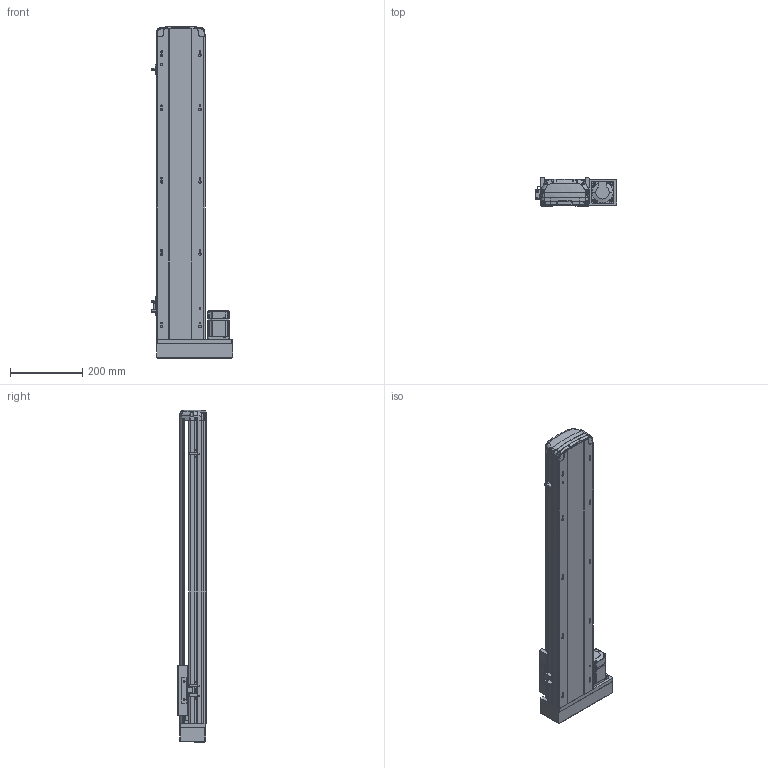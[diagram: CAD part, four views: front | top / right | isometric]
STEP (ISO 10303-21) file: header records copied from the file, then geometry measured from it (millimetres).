
FILE_DESCRIPTION (( 'STEP AP214' ), '1' );
FILE_NAME ('RTH14-XX-650-R-M20-C4.STEP', '2025-10-24T09:55:13', ( 'Microsoft' ), ( 'Microsoft' ), 'SwSTEP 2.0', 'SolidWorks 2018', '' );
FILE_SCHEMA (( 'AUTOMOTIVE_DESIGN' ));
Length unit declared in the file: millimetre
Products named in the file (10): N_RTH13-L-018 裔赽^RTH14-XX-XX-R-M20-C4; N_RTH14-GY-001P^RTH14-XX-XX-R-M20-C4; N_RTH14-M-007P奻裔^RTH14-XX-XX-R-M20-C4; N_OMRON EE-SX672 传感器^RTH14-XX-XX-R-M20-C4; RTH14-XX-650-R-M20-C4; N_RTH13-L-012感应片（外置）^RTH14-XX-XX-R-M20-C4; N_RTH13-L-008-P20 萇儂啣酘蛌殏^RTH14-XX-XX-R-M20-C4; N_MSMD022P1AA_200W^RTH14-XX-XX-R-M20-C4; N_RTH14-R-004-SFSR16賑釱^RTH14-XX-XX-R-M20-C4; N_RTH14-M-011P菁釱^RTH14-XX-XX-R-M20-C4
Assembly tree (11 placements, depth 2):
  RTH14-XX-650-R-M20-C4
    N_RTH14-M-011P菁釱^RTH14-XX-XX-R-M20-C4
    N_RTH14-M-007P奻裔^RTH14-XX-XX-R-M20-C4
    N_MSMD022P1AA_200W^RTH14-XX-XX-R-M20-C4
    N_RTH13-L-008-P20 萇儂啣酘蛌殏^RTH14-XX-XX-R-M20-C4
    N_RTH13-L-018 裔赽^RTH14-XX-XX-R-M20-C4
    N_RTH13-L-012感应片（外置）^RTH14-XX-XX-R-M20-C4
    N_OMRON EE-SX672 传感器^RTH14-XX-XX-R-M20-C4  x3
    N_RTH14-R-004-SFSR16賑釱^RTH14-XX-XX-R-M20-C4
    N_RTH14-GY-001P^RTH14-XX-XX-R-M20-C4
Bounding box: 224 x 78.03 x 917.73 mm (x, y, z)
Volume: 4114876.2 mm3; surface area: 970680.1 mm2
Topology: 10 solids, 12 shells, 1869 faces, 5230 edges, 3429 vertices
Faces by surface type: plane 989, cylinder 485, bspline 346, cone 45, torus 4
Entity records: 57129 total; most frequent: CARTESIAN_POINT 23093, ORIENTED_EDGE 7517, DIRECTION 6020, EDGE_CURVE 3764, VERTEX_POINT 2465, VECTOR 2154, LINE 2154, AXIS2_PLACEMENT_3D 1933
